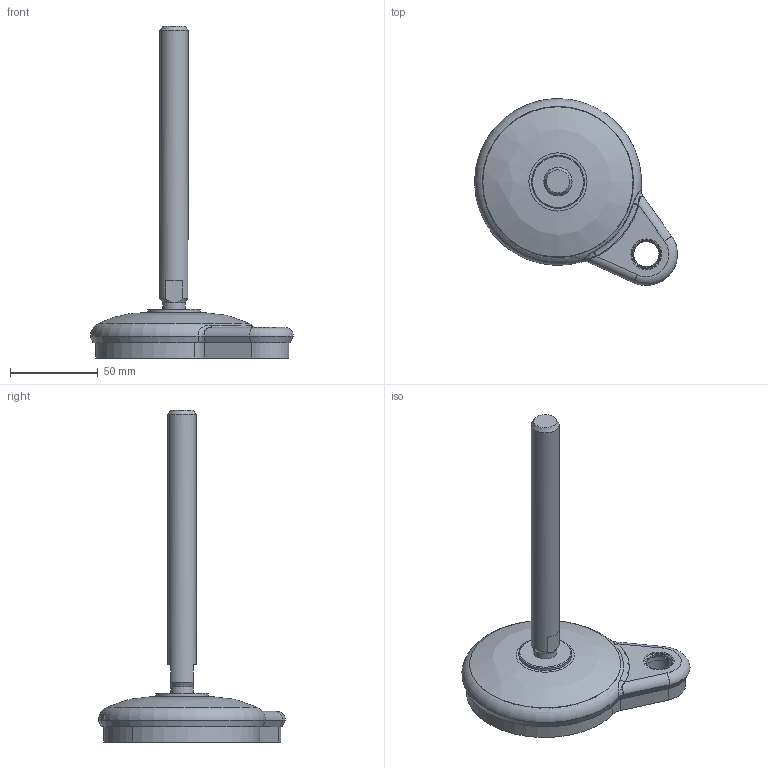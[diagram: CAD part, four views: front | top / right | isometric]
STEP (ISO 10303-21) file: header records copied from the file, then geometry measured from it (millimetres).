
FILE_DESCRIPTION(/* description */ ('STEP AP214'),/* implementation_level */ '2;1');
FILE_NAME(/* name */ 'C:\Users\Stefan.Nesic\Desktop\01010STEP\000Verifica\CORRETTI\P095ICM16X190.stp',/* time_stamp */ '2022-07-12T11:12:25+02:00',/* author */ ('stefan.nesic'),/* organization */ (' '),/* preprocessor_version */ 'ST-DEVELOPER v18.1',/* originating_system */ 'Autodesk Inventor 2021',/* authorisation */ ' ');
FILE_SCHEMA (('CONFIG_CONTROL_DESIGN'));
Length unit declared in the file: millimetre
Products named in the file (3): P095ICM16X190; Disegno1; 3041
Assembly tree (2 placements, depth 2):
  P095ICM16X190
    Disegno1
    3041
Bounding box: 115.49 x 106.33 x 188.96 mm (x, y, z)
Volume: 200053.5 mm3; surface area: 56725.5 mm2
Topology: 4 solids, 4 shells, 126 faces, 276 edges, 181 vertices
Faces by surface type: plane 44, cylinder 35, bspline 19, torus 19, cone 9
Full cylindrical faces by diameter (mm): 9.6 x2, 10 x1, 10.3 x3, 11 x1, 11.838 x1, 13 x1, 14.5 x3, 15.5 x1, 16 x2, 24.98 x1, 26.5 x2, 27.5 x1, 29 x1, 30 x1, 34.5 x1, 40.03 x1, 49.56 x1, 55.09 x1, 64.62 x1, 70.15 x1, 79.73 x1
Entity records: 5586 total; most frequent: CARTESIAN_POINT 2646, DIRECTION 622, ORIENTED_EDGE 552, EDGE_CURVE 276, AXIS2_PLACEMENT_3D 276, VERTEX_POINT 181, CIRCLE 160, EDGE_LOOP 157
